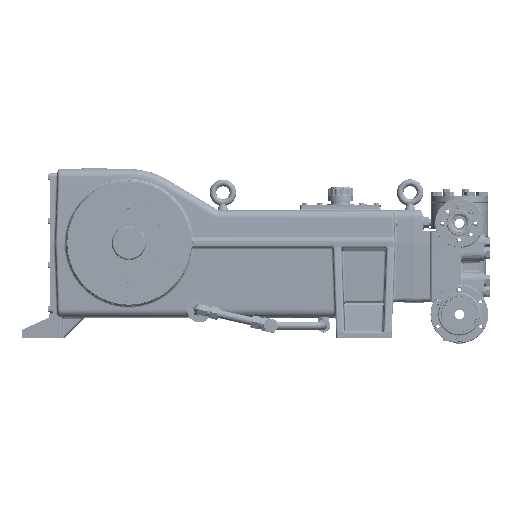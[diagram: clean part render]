
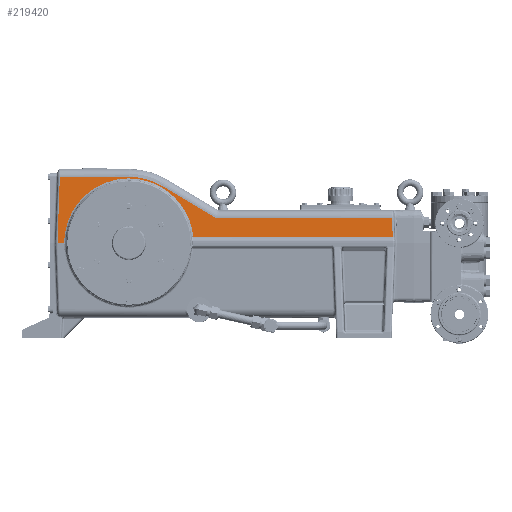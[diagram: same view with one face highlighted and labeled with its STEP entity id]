
A CAD part, top view. The second image highlights one B-rep face of the part: STEP entity #219420.
In plain terms, the highlighted planar face has unit normal (0, 0.035, 0.999).
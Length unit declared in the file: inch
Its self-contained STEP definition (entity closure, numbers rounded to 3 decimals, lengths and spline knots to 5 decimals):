
#67 = CARTESIAN_POINT ( 'NONE',  ( 0., 8.0349, 12.96942 ) ) ;
#6061 = VERTEX_POINT ( 'NONE', #241477 ) ;
#7894 = DIRECTION ( 'NONE',  ( 0., 0.035, 0.999 ) ) ;
#8978 =( BOUNDED_CURVE ( )  B_SPLINE_CURVE ( 3, ( #245727, #97918, #13955, #161725 ),
 .UNSPECIFIED., .F., .T. ) 
 B_SPLINE_CURVE_WITH_KNOTS ( ( 4, 4 ),
 ( 0., 1.47511 ),
 .UNSPECIFIED. ) 
 CURVE ( )  GEOMETRIC_REPRESENTATION_ITEM ( )  RATIONAL_B_SPLINE_CURVE ( ( 1., 0.827, 0.827, 1. ) ) 
 REPRESENTATION_ITEM ( '' )  );
#9578 = VERTEX_POINT ( 'NONE', #176952 ) ;
#9819 = DIRECTION ( 'NONE',  ( -0.857, 0.514, -0.018 ) ) ;
#11504 = CARTESIAN_POINT ( 'NONE',  ( 0., 3.0349, 13.14402 ) ) ;
#12406 = DIRECTION ( 'NONE',  ( -0.035, -0.999, 0.035 ) ) ;
#13955 = CARTESIAN_POINT ( 'NONE',  ( 7.40739, 4.97864, 13.07614 ) ) ;
#17693 = LINE ( 'NONE', #81975, #123418 ) ;
#24525 = VERTEX_POINT ( 'NONE', #113150 ) ;
#30296 = CARTESIAN_POINT ( 'NONE',  ( -7.85, 0., 13.25 ) ) ;
#34679 = EDGE_CURVE ( 'NONE', #200295, #24525, #53155, .T. ) ;
#40681 = LINE ( 'NONE', #88281, #153148 ) ;
#41013 = ORIENTED_EDGE ( 'NONE', *, *, #47517, .T. ) ;
#44743 = LINE ( 'NONE', #213883, #262866 ) ;
#45261 = EDGE_LOOP ( 'NONE', ( #237852, #80322, #215926, #229724, #230307, #255565, #233180, #202727, #41013, #50327 ) ) ;
#47517 = EDGE_CURVE ( 'NONE', #100753, #141415, #73725, .T. ) ;
#49109 = EDGE_CURVE ( 'NONE', #166405, #118320, #222164, .T. ) ;
#50327 = ORIENTED_EDGE ( 'NONE', *, *, #170170, .T. ) ;
#53108 = CARTESIAN_POINT ( 'NONE',  ( -7.85, 0., 13.25 ) ) ;
#53155 = LINE ( 'NONE', #11504, #158997 ) ;
#54091 = CARTESIAN_POINT ( 'NONE',  ( 0., 7.84128, 12.97618 ) ) ;
#62804 = CARTESIAN_POINT ( 'NONE',  ( 4.11559, 6.89507, 13.00922 ) ) ;
#73725 =( BOUNDED_CURVE ( )  B_SPLINE_CURVE ( 3, ( #53108, #223025, #244320, #117777 ),
 .UNSPECIFIED., .F., .F. ) 
 B_SPLINE_CURVE_WITH_KNOTS ( ( 4, 4 ),
 ( 4.7135, 6.28319 ),
 .UNSPECIFIED. ) 
 CURVE ( )  GEOMETRIC_REPRESENTATION_ITEM ( )  RATIONAL_B_SPLINE_CURVE ( ( 1., 0.805, 0.805, 1. ) ) 
 REPRESENTATION_ITEM ( '' )  );
#80322 = ORIENTED_EDGE ( 'NONE', *, *, #172390, .T. ) ;
#81975 = CARTESIAN_POINT ( 'NONE',  ( 31.89448, 3.0262, 13.14432 ) ) ;
#87383 = DIRECTION ( 'NONE',  ( 1., 0., 0. ) ) ;
#88281 = CARTESIAN_POINT ( 'NONE',  ( 0., 8.0349, 12.96942 ) ) ;
#89756 = CARTESIAN_POINT ( 'NONE',  ( -8.65015, 0., 13.25 ) ) ;
#97918 = CARTESIAN_POINT ( 'NONE',  ( 4.25684, 7.84128, 12.97618 ) ) ;
#100551 = CARTESIAN_POINT ( 'NONE',  ( 31.97427, 0.74128, 13.22411 ) ) ;
#100753 = VERTEX_POINT ( 'NONE', #30296 ) ;
#101861 = CARTESIAN_POINT ( 'NONE',  ( -8.36957, 8.0349, 12.96942 ) ) ;
#112517 = EDGE_CURVE ( 'NONE', #9578, #6061, #113815, .T. ) ;
#113150 = CARTESIAN_POINT ( 'NONE',  ( 10.55, 3.0349, 13.14402 ) ) ;
#113815 =( BOUNDED_CURVE ( )  B_SPLINE_CURVE ( 3, ( #62804, #189332, #126575, #67 ),
 .UNSPECIFIED., .F., .T. ) 
 B_SPLINE_CURVE_WITH_KNOTS ( ( 4, 4 ),
 ( 5.74282, 6.28319 ),
 .UNSPECIFIED. ) 
 CURVE ( )  GEOMETRIC_REPRESENTATION_ITEM ( )  RATIONAL_B_SPLINE_CURVE ( ( 1., 0.976, 0.976, 1. ) ) 
 REPRESENTATION_ITEM ( '' )  );
#116039 = VECTOR ( 'NONE', #9819, 39.37008 ) ;
#117777 = CARTESIAN_POINT ( 'NONE',  ( 0., 7.84128, 12.97618 ) ) ;
#118320 = VERTEX_POINT ( 'NONE', #89756 ) ;
#120939 = DIRECTION ( 'NONE',  ( 1., 0., 0. ) ) ;
#121852 = FACE_OUTER_BOUND ( 'NONE', #45261, .T. ) ;
#122718 = LINE ( 'NONE', #262836, #116039 ) ;
#123418 = VECTOR ( 'NONE', #229664, 39.37008 ) ;
#126575 = CARTESIAN_POINT ( 'NONE',  ( 1.45879, 8.0349, 12.96942 ) ) ;
#134471 = CARTESIAN_POINT ( 'NONE',  ( 0., 0., 13.25 ) ) ;
#141415 = VERTEX_POINT ( 'NONE', #54091 ) ;
#153148 = VECTOR ( 'NONE', #236056, 39.37008 ) ;
#155372 = AXIS2_PLACEMENT_3D ( 'NONE', #134471, #7894, #155641 ) ;
#155641 = DIRECTION ( 'NONE',  ( 0., -0.999, 0.035 ) ) ;
#158997 = VECTOR ( 'NONE', #159266, 39.37008 ) ;
#159266 = DIRECTION ( 'NONE',  ( -1., 0., 0. ) ) ;
#161725 = CARTESIAN_POINT ( 'NONE',  ( 7.81409, 0.74128, 13.22411 ) ) ;
#163422 = CARTESIAN_POINT ( 'NONE',  ( 0., 0., 13.25 ) ) ;
#166068 = VECTOR ( 'NONE', #12406, 39.37008 ) ;
#166405 = VERTEX_POINT ( 'NONE', #101861 ) ;
#170170 = EDGE_CURVE ( 'NONE', #141415, #181442, #8978, .T. ) ;
#172390 = EDGE_CURVE ( 'NONE', #204872, #200295, #17693, .T. ) ;
#172429 = EDGE_CURVE ( 'NONE', #6061, #166405, #40681, .T. ) ;
#174876 = EDGE_CURVE ( 'NONE', #118320, #100753, #232441, .T. ) ;
#175925 = PLANE ( 'NONE',  #155372 ) ;
#176304 = VECTOR ( 'NONE', #120939, 39.37008 ) ;
#176952 = CARTESIAN_POINT ( 'NONE',  ( 4.11559, 6.89507, 13.00922 ) ) ;
#181442 = VERTEX_POINT ( 'NONE', #253223 ) ;
#189332 = CARTESIAN_POINT ( 'NONE',  ( 2.86465, 7.64554, 12.98301 ) ) ;
#200295 = VERTEX_POINT ( 'NONE', #254544 ) ;
#202727 = ORIENTED_EDGE ( 'NONE', *, *, #174876, .T. ) ;
#204872 = VERTEX_POINT ( 'NONE', #100551 ) ;
#213883 = CARTESIAN_POINT ( 'NONE',  ( 32.23254, 0.74128, 13.22411 ) ) ;
#215926 = ORIENTED_EDGE ( 'NONE', *, *, #34679, .T. ) ;
#219420 = ADVANCED_FACE ( 'NONE', ( #121852 ), #175925, .T. ) ;
#222164 = LINE ( 'NONE', #273813, #166068 ) ;
#223025 = CARTESIAN_POINT ( 'NONE',  ( -7.84489, 4.59437, 13.08956 ) ) ;
#229664 = DIRECTION ( 'NONE',  ( -0.035, 0.999, -0.035 ) ) ;
#229724 = ORIENTED_EDGE ( 'NONE', *, *, #239558, .T. ) ;
#230307 = ORIENTED_EDGE ( 'NONE', *, *, #112517, .T. ) ;
#232441 = LINE ( 'NONE', #163422, #176304 ) ;
#233180 = ORIENTED_EDGE ( 'NONE', *, *, #49109, .T. ) ;
#236056 = DIRECTION ( 'NONE',  ( -1., 0., 0. ) ) ;
#237852 = ORIENTED_EDGE ( 'NONE', *, *, #253650, .T. ) ;
#239558 = EDGE_CURVE ( 'NONE', #24525, #9578, #122718, .T. ) ;
#241477 = CARTESIAN_POINT ( 'NONE',  ( 0., 8.0349, 12.96942 ) ) ;
#244320 = CARTESIAN_POINT ( 'NONE',  ( -4.59437, 7.84128, 12.97618 ) ) ;
#245727 = CARTESIAN_POINT ( 'NONE',  ( 0., 7.84128, 12.97618 ) ) ;
#253223 = CARTESIAN_POINT ( 'NONE',  ( 7.81409, 0.74128, 13.22411 ) ) ;
#253650 = EDGE_CURVE ( 'NONE', #181442, #204872, #44743, .T. ) ;
#254544 = CARTESIAN_POINT ( 'NONE',  ( 31.89417, 3.0349, 13.14402 ) ) ;
#255565 = ORIENTED_EDGE ( 'NONE', *, *, #172429, .T. ) ;
#262836 = CARTESIAN_POINT ( 'NONE',  ( 4.13469, 6.88361, 13.00962 ) ) ;
#262866 = VECTOR ( 'NONE', #87383, 39.37008 ) ;
#273813 = CARTESIAN_POINT ( 'NONE',  ( -8.63963, 0.30134, 13.23948 ) ) ;
